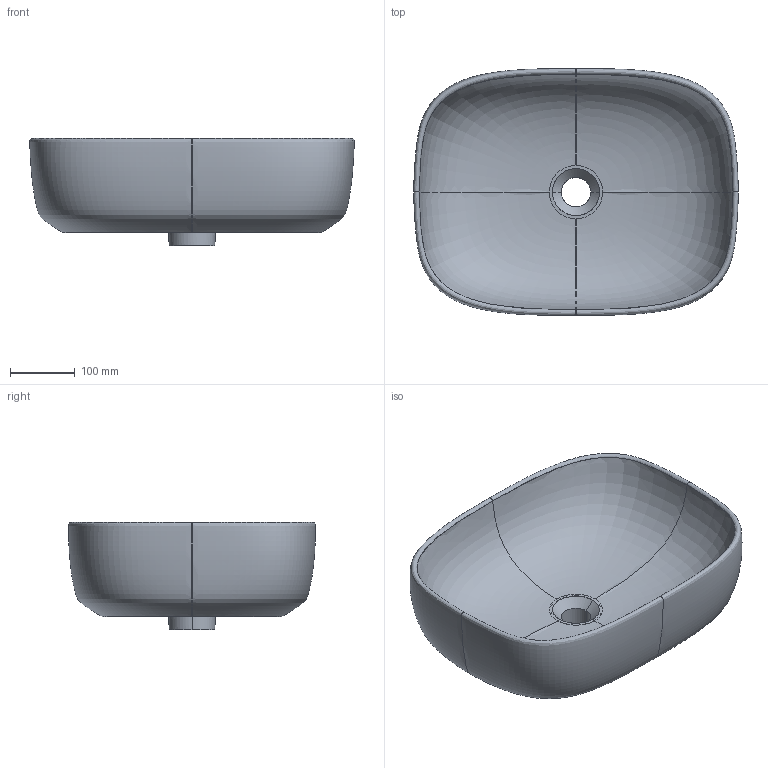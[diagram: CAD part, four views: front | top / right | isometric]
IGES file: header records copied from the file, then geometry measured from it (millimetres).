
Start section: START RECORD GO HERE.
Global section: file name: 7301.igs; native system: DASSAULT SYSTEMES CATIA V5 R19 - www.3ds.com; preprocessor: CATIA Version 5 Release 19 SP 5 ; author: gioge; organization: LAPTOP-G94B6G74; date: 20200630.142021; units: millimetre
Bounding box: 499.97 x 380.34 x 165.13 mm (x, y, z)
Surface area: 624082.6 mm2 (no closed solid volume)
Topology: 0 solids, 0 shells, 64 faces, 281 edges, 281 vertices
Faces by surface type: bspline 32, extrusion 16, plane 14, revolution 2
